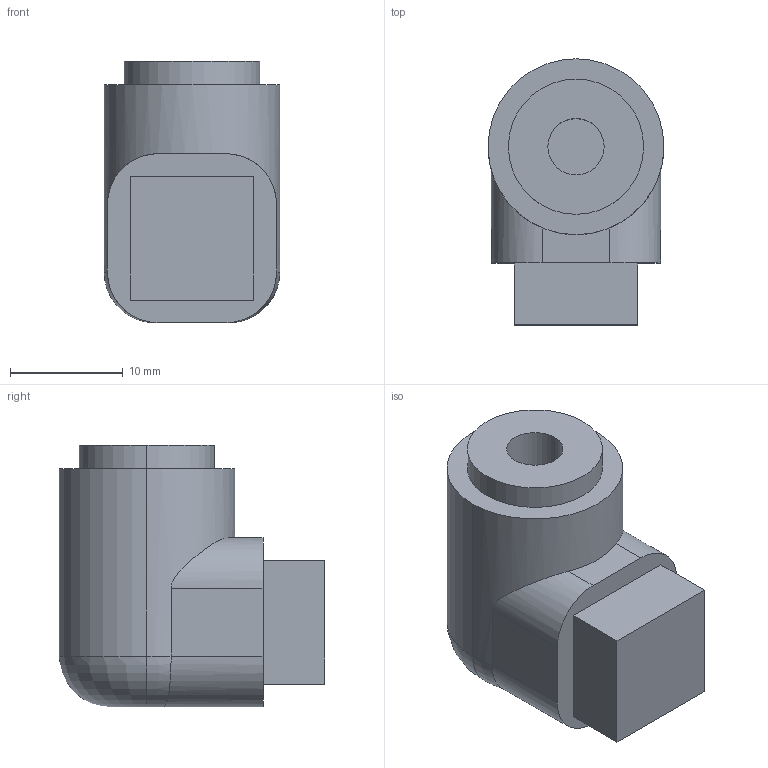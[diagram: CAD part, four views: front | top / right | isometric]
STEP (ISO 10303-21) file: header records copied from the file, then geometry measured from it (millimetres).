
FILE_DESCRIPTION (( 'STEP AP203' ), '1' );
FILE_NAME ('ZF_STEP_VN_AA200_A09.step', '2009-06-25T20:11:55', ( 'mario' ), ( '' ), 'SwSTEP 2.0', 'SolidWorks 2009', '' );
FILE_SCHEMA (( 'CONFIG_CONTROL_DESIGN' ));
Length unit declared in the file: millimetre
Products named in the file (1): ZF_STEP_VN_AA200_A09
Bounding box: 15.6 x 23.6 x 23.2 mm (x, y, z)
Volume: 5399.7 mm3; surface area: 2053.2 mm2
Topology: 1 solids, 1 shells, 26 faces, 59 edges, 38 vertices
Faces by surface type: plane 13, cylinder 10, torus 3
Entity records: 879 total; most frequent: CARTESIAN_POINT 200, DIRECTION 132, ORIENTED_EDGE 118, EDGE_CURVE 59, AXIS2_PLACEMENT_3D 50, VERTEX_POINT 38, VECTOR 32, LINE 32
